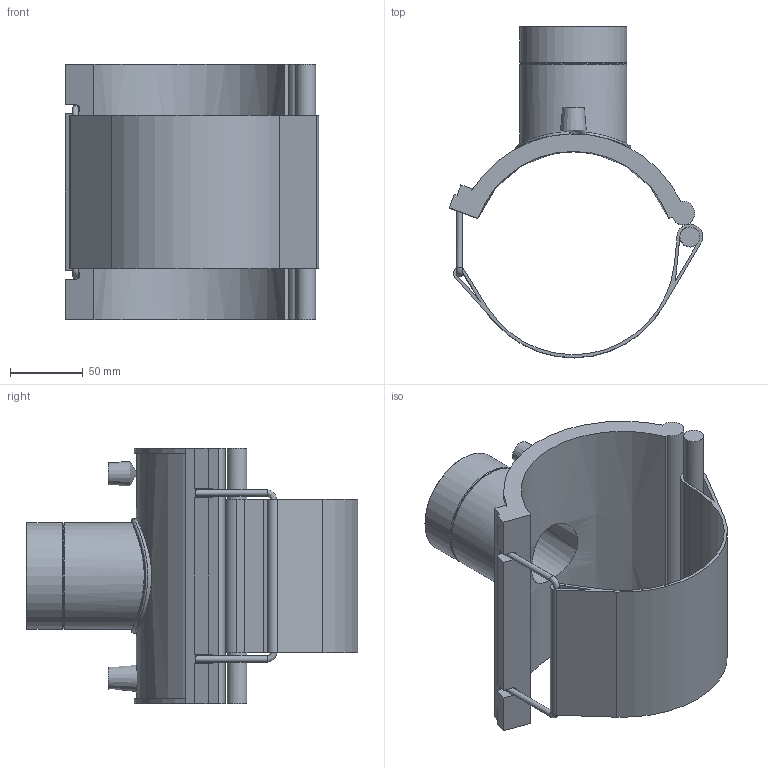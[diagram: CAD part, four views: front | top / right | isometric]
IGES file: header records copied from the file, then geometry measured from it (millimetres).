
Global section: file name: 493804140020.ipt; native system: Autodesk Inventor 2015; preprocessor: unknown; author: KIM; date: 20171106.094108; units: millimetre
Bounding box: 174.6 x 228.6 x 176 mm (x, y, z)
Volume: 658434 mm3; surface area: 190182.9 mm2
Topology: 2 solids, 2 shells, 80 faces, 200 edges, 128 vertices
Faces by surface type: plane 44, cylinder 19, revolution 11, cone 5, bspline 1
Full cylindrical faces by diameter (mm): 4 x2, 4.2 x2, 13.569 x1, 72.653 x1, 73.653 x2, 79.318 x1
